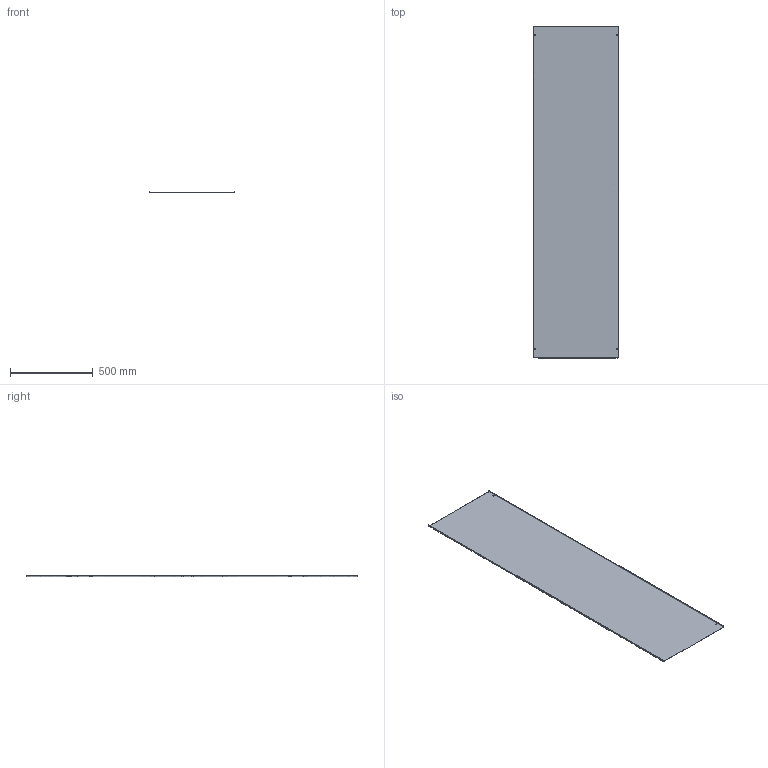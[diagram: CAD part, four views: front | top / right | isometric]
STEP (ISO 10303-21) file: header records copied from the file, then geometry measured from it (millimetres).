
FILE_DESCRIPTION(/* description */ (''),/* implementation_level */ '2;1');
FILE_NAME(/* name */ 'VZM500',/* time_stamp */ '2012-11-29T22:53:42+01:00',/* author */ (''),/* organization */ (''),/* preprocessor_version */ 'ST-DEVELOPER v10',/* originating_system */ '',/* authorisation */ '');
FILE_SCHEMA (('AUTOMOTIVE_DESIGN_CC2'));
Length unit declared in the file: millimetre
Products named in the file (1): 1
Bounding box: 511 x 2002 x 10.5 mm (x, y, z)
Surface area: 2068135.9 mm2 (no closed solid volume)
Topology: 0 solids, 22 shells, 22 faces, 120 edges, 120 vertices
Faces by surface type: plane 18, bspline 4
Entity records: 1488 total; most frequent: CARTESIAN_POINT 644, ORIENTED_EDGE 120, EDGE_CURVE 120, VERTEX_POINT 120, B_SPLINE_CURVE_WITH_KNOTS 104, EDGE_LOOP 30, COLOUR_RGB 22, FILL_AREA_STYLE_COLOUR 22
